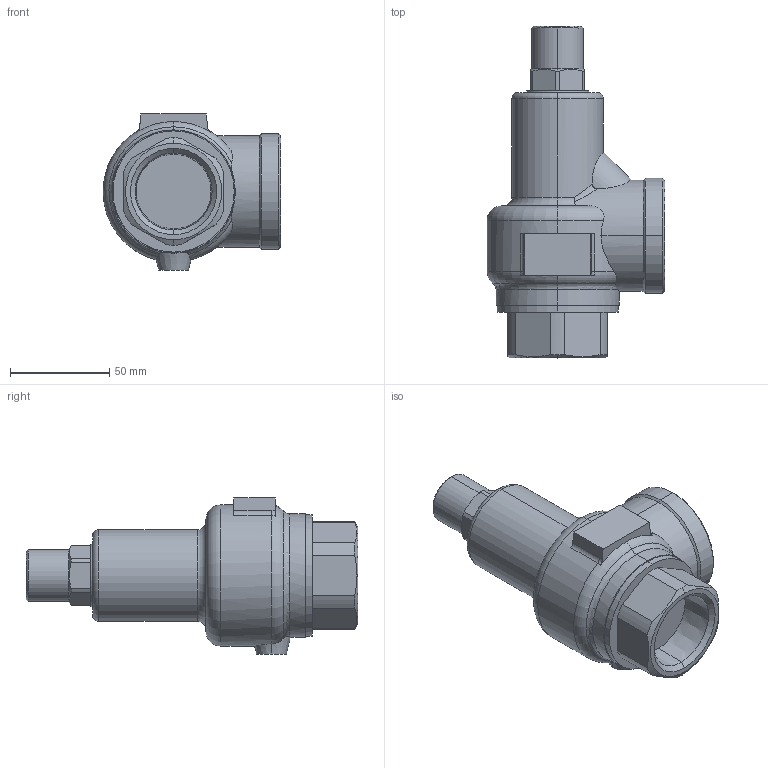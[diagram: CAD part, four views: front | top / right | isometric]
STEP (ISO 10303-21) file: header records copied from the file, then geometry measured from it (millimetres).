
FILE_DESCRIPTION (( 'STEP AP203' ), '1' );
FILE_NAME ('AL-150H 32A.STEP', '2026-01-13T01:21:20', ( '' ), ( '' ), 'SwSTEP 2.0', 'SolidWorks 2024', '' );
FILE_SCHEMA (( 'CONFIG_CONTROL_DESIGN' ));
Length unit declared in the file: millimetre
Products named in the file (1): AL-150H 32A
Bounding box: 89.5 x 167 x 78.5 mm (x, y, z)
Volume: 380621.4 mm3; surface area: 41750.1 mm2
Topology: 1 solids, 1 shells, 105 faces, 261 edges, 164 vertices
Faces by surface type: cylinder 32, plane 31, cone 22, torus 16, bspline 4
Entity records: 3846 total; most frequent: CARTESIAN_POINT 1300, DIRECTION 524, ORIENTED_EDGE 522, EDGE_CURVE 261, AXIS2_PLACEMENT_3D 218, VERTEX_POINT 164, CIRCLE 116, EDGE_LOOP 111
